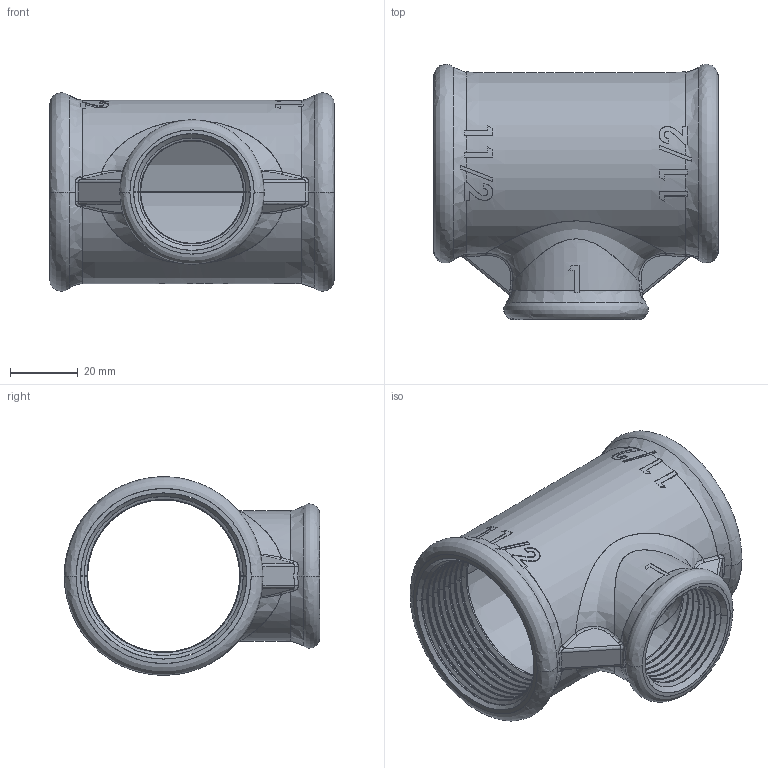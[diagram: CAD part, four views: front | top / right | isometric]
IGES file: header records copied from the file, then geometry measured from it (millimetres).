
Start section: SolidWorks IGES file using analytic representation for surfaces
Global section: file name: C:\Users\Joel Rosa\Desktop\Tubulação\12-45-XXX\12-45-041.IGS; native system: SolidWorks 2011; preprocessor: SolidWorks 2011; author: Joel Rosa; date: 121212.234003; units: millimetre
Bounding box: 84 x 75.3 x 58.6 mm (x, y, z)
Surface area: 36953 mm2 (no closed solid volume)
Topology: 0 solids, 0 shells, 458 faces, 4441 edges, 4441 vertices
Faces by surface type: bspline 327, revolution 131
